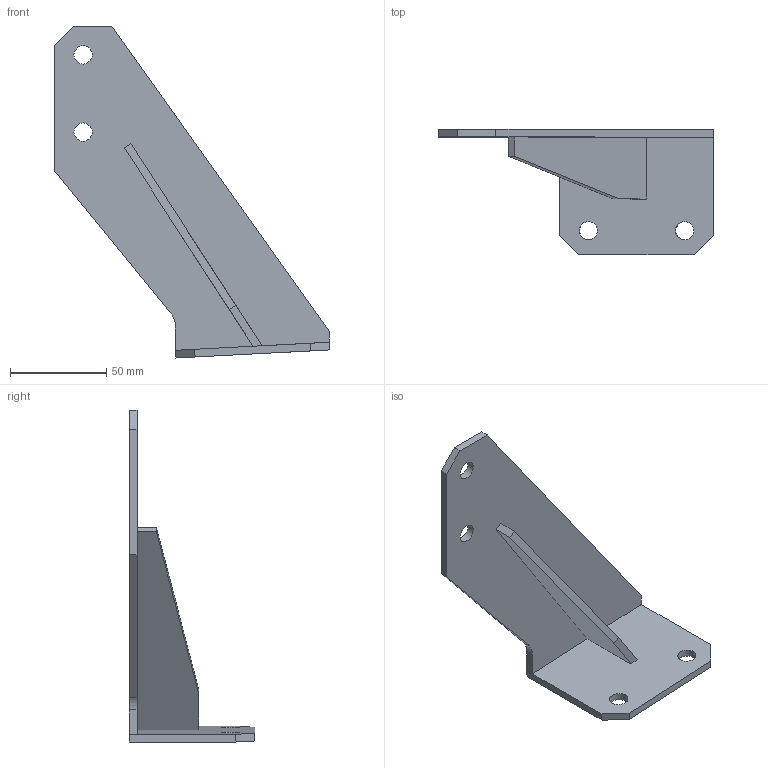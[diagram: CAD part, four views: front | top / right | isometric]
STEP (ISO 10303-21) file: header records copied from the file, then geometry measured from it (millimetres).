
FILE_DESCRIPTION(/* description */ ('SUPPORT AVANT GAUCHE','CAx-IF Rec.Pracs.---Representation and Presentation of Product Manufacturing Information (PMI)---4.0---2014-10-13'),/* implementation_level */ '2;1');
FILE_NAME(/* name */ 'vv110302-B.stp',/* time_stamp */ '2025-09-26T17:23:26+02:00',/* author */ ('CORDOLIANI J.'),/* organization */ (''),/* preprocessor_version */ 'ST-DEVELOPER v20',/* originating_system */ 'Autodesk Inventor 2025',/* authorisation */ '');
FILE_SCHEMA (('AP242_MANAGED_MODEL_BASED_3D_ENGINEERING_MIM_LF { 1 0 10303 442 1 1 4 }'));
Length unit declared in the file: millimetre
Products named in the file (1): VICTOR.V.11.03.02
Bounding box: 143.01 x 65 x 172.18 mm (x, y, z)
Volume: 76404.1 mm3; surface area: 42958.9 mm2
Topology: 3 solids, 3 shells, 30 faces, 72 edges, 48 vertices
Faces by surface type: plane 25, cylinder 5
Full cylindrical faces by diameter (mm): 9.5 x4
Entity records: 1137 total; most frequent: CARTESIAN_POINT 224, DIRECTION 152, ORIENTED_EDGE 144, EDGE_CURVE 72, LINE 62, VECTOR 62, VERTEX_POINT 48, STYLED_ITEM 47
